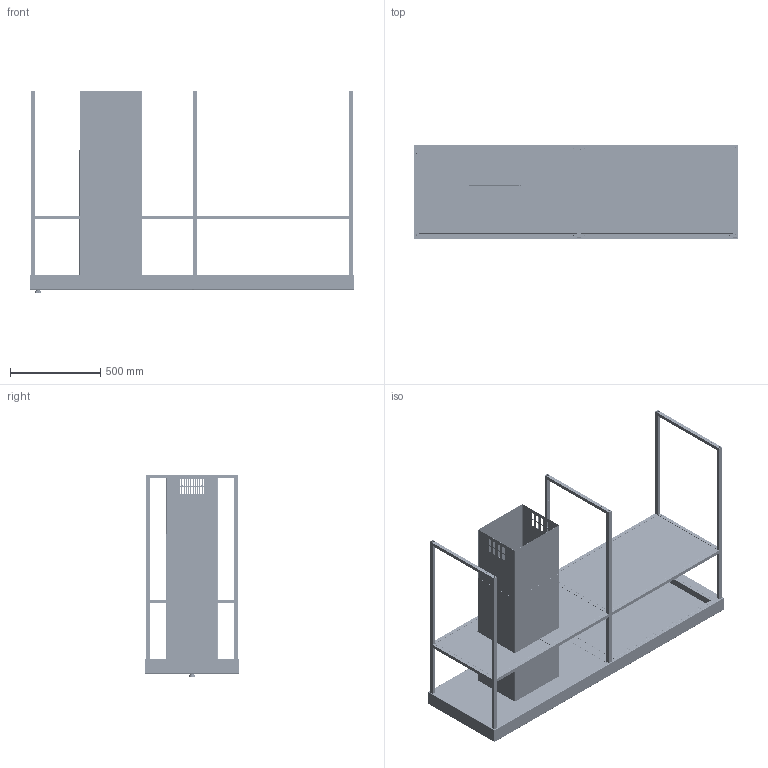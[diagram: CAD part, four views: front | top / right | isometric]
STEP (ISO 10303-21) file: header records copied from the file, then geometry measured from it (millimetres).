
FILE_DESCRIPTION(/* description */ (''),/* implementation_level */ '2;1');
FILE_NAME(/* name */ '3D001_Hoods_Mythos_FMY-F180',/* time_stamp */ '2024-02-15T10:46:59+01:00',/* author */ (''),/* organization */ (''),/* preprocessor_version */ 'ST-DEVELOPER v19.2',/* originating_system */ 'Rhino 8.3',/* authorisation */ '');
FILE_SCHEMA (('CONFIG_CONTROL_DESIGN'));
Products named in the file (49): Document; CME_730; 325121_030; 325121_029; 325121_023_G; 325121_026; 325121_028; Blocco 14; 325121_015; Blocco 13; 325121_715_ASM; 325121_718_ASM; 325121_014; 325121_013; RVT_003; 325121_046; 325121_712_ASM; 325121_035; 17B_716_ASM; 17B_037; 17B_101; 17B_100; 17B_036; 17B_035; 325121_036; FIN_030; 325121_007; 325121_711_ASM; 325121_001; 325121_002; 325121_006; SCR_063; SCR_031; 325121_020; 325121_018; 325121_017; 325121_024; CIA_000B; Blocco 16; CIA_400H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
Bounding box: 1796 x 520 x 1120.54 mm (x, y, z)
Volume: 9576942.9 mm3; surface area: 13522925.4 mm2
Topology: 198 solids, 508 shells, 12328 faces, 33472 edges, 21149 vertices
Faces by surface type: plane 7639, cylinder 3488, bspline 1201
Entity records: 233219 total; most frequent: CARTESIAN_POINT 84336, ORIENTED_EDGE 36034, EDGE_CURVE 19209, B_SPLINE_CURVE_WITH_KNOTS 15574, DIRECTION 14113, VERTEX_POINT 12645, AXIS2_PLACEMENT_3D 10247, EDGE_LOOP 7613
